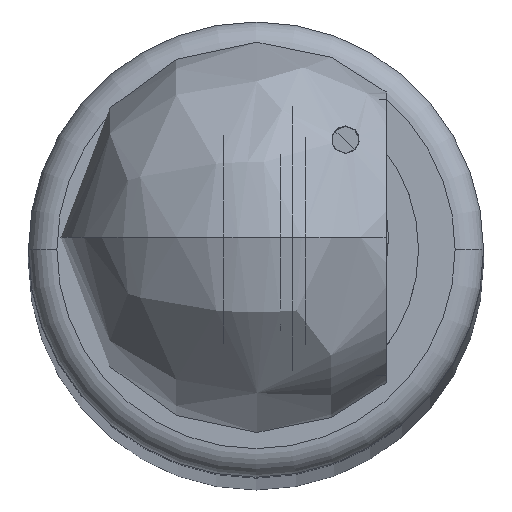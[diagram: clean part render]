
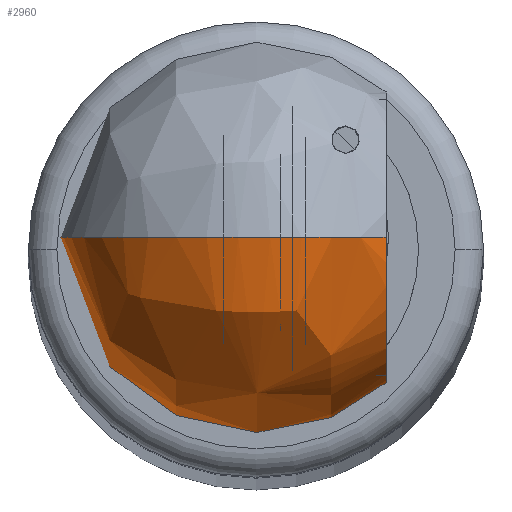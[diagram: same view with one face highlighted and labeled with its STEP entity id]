
A CAD part, top view. The second image highlights one B-rep face of the part: STEP entity #2960.
In plain terms, the highlighted free-form (B-spline) face has degree [3, 3] with [4, 4] control points.
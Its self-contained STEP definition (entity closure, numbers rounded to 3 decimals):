
#376 = CIRCLE ( 'NONE', #439, 12. ) ;
#439 = AXIS2_PLACEMENT_3D ( 'NONE', #1377, #1376, #1373 ) ;
#1218 = CARTESIAN_POINT ( 'NONE',  ( -12., 0., 0. ) ) ;
#1229 = CARTESIAN_POINT ( 'NONE',  ( -12., 0., 0. ) ) ;
#1245 = CARTESIAN_POINT ( 'NONE',  ( -12., 0., 0. ) ) ;
#1250 = CARTESIAN_POINT ( 'NONE',  ( -12., 0., 0. ) ) ;
#1264 = CARTESIAN_POINT ( 'NONE',  ( -12., -12.061, 0. ) ) ;
#1272 = CARTESIAN_POINT ( 'NONE',  ( -12., -12.061, 24.122 ) ) ;
#1276 = CARTESIAN_POINT ( 'NONE',  ( -12., 12.061, 24.122 ) ) ;
#1279 = CARTESIAN_POINT ( 'NONE',  ( -12., 12.061, 0. ) ) ;
#1284 = CARTESIAN_POINT ( 'NONE',  ( -0.99, -16.985, 0. ) ) ;
#1294 = CARTESIAN_POINT ( 'NONE',  ( -0.99, -16.985, 33.97 ) ) ;
#1304 = CARTESIAN_POINT ( 'NONE',  ( -0.99, 16.985, 33.97 ) ) ;
#1308 = CARTESIAN_POINT ( 'NONE',  ( -0.99, 16.985, 0. ) ) ;
#1317 = CARTESIAN_POINT ( 'NONE',  ( 8., -8.944, 0. ) ) ;
#1321 = CARTESIAN_POINT ( 'NONE',  ( 8., -8.944, 17.889 ) ) ;
#1327 = CARTESIAN_POINT ( 'NONE',  ( 8., 8.944, 17.889 ) ) ;
#1337 = CARTESIAN_POINT ( 'NONE',  ( 8., 8.944, 0. ) ) ;
#1373 = DIRECTION ( 'NONE',  ( 1., 0., 0. ) ) ;
#1376 = DIRECTION ( 'NONE',  ( 0., 0., -1. ) ) ;
#1377 = CARTESIAN_POINT ( 'NONE',  ( 0., 0., 0. ) ) ;
#1438 = ORIENTED_EDGE ( 'NONE', *, *, #2919, .T. ) ;
#1473 = ORIENTED_EDGE ( 'NONE', *, *, #2857, .T. ) ;
#1493 = VERTEX_POINT ( 'NONE', #3102 ) ;
#1520 = ORIENTED_EDGE ( 'NONE', *, *, #2958, .F. ) ;
#1521 = ORIENTED_EDGE ( 'NONE', *, *, #2847, .T. ) ;
#1528 = VERTEX_POINT ( 'NONE', #3137 ) ;
#1556 = VERTEX_POINT ( 'NONE', #3599 ) ;
#1589 = EDGE_LOOP ( 'NONE', ( #1520, #1521, #1438, #1607, #1473 ) ) ;
#1590 = VERTEX_POINT ( 'NONE', #3588 ) ;
#1607 = ORIENTED_EDGE ( 'NONE', *, *, #2862, .F. ) ;
#2308 =( BOUNDED_SURFACE ( )  B_SPLINE_SURFACE ( 3, 3, ( 
 ( #1337, #1327, #1321, #1317 ),
 ( #1308, #1304, #1294, #1284 ),
 ( #1279, #1276, #1272, #1264 ),
 ( #1250, #1245, #1229, #1218 ) ),
 .UNSPECIFIED., .F., .F., .F. ) 
 B_SPLINE_SURFACE_WITH_KNOTS ( ( 4, 4 ),
 ( 4, 4 ),
 ( 0., 1. ),
 ( 0., 1. ),
 .UNSPECIFIED. ) 
 GEOMETRIC_REPRESENTATION_ITEM ( )  RATIONAL_B_SPLINE_SURFACE ( (
 ( 1., 0.333, 0.333, 1.),
 ( 0.605, 0.202, 0.202, 0.605),
 ( 0.605, 0.202, 0.202, 0.605),
 ( 1., 0.333, 0.333, 1.) ) ) 
 REPRESENTATION_ITEM ( '' )  SURFACE ( )  );
#2488 = FACE_OUTER_BOUND ( 'NONE', #1589, .T. ) ;
#2724 = VERTEX_POINT ( 'NONE', #3531 ) ;
#2761 = CIRCLE ( 'NONE', #2763, 8.944 ) ;
#2763 = AXIS2_PLACEMENT_3D ( 'NONE', #3283, #3282, #3281 ) ;
#2766 = CIRCLE ( 'NONE', #2778, 12. ) ;
#2768 = CIRCLE ( 'NONE', #2770, 6.721 ) ;
#2770 = AXIS2_PLACEMENT_3D ( 'NONE', #3186, #3185, #3184 ) ;
#2778 = AXIS2_PLACEMENT_3D ( 'NONE', #3170, #3555, #3201 ) ;
#2847 = EDGE_CURVE ( 'NONE', #1493, #2724, #2761, .T. ) ;
#2857 = EDGE_CURVE ( 'NONE', #1528, #1590, #2768, .T. ) ;
#2862 = EDGE_CURVE ( 'NONE', #1528, #1556, #2766, .T. ) ;
#2919 = EDGE_CURVE ( 'NONE', #2724, #1556, #4109, .T. ) ;
#2958 = EDGE_CURVE ( 'NONE', #1493, #1590, #376, .T. ) ;
#2960 = ADVANCED_FACE ( 'NONE', ( #2488 ), #2308, .T. ) ;
#3102 = CARTESIAN_POINT ( 'NONE',  ( 8., -8.944, 0. ) ) ;
#3137 = CARTESIAN_POINT ( 'NONE',  ( -6.721, -9.941, 0. ) ) ;
#3170 = CARTESIAN_POINT ( 'NONE',  ( 0., 0., 0. ) ) ;
#3184 = DIRECTION ( 'NONE',  ( 1., 0., 0. ) ) ;
#3185 = DIRECTION ( 'NONE',  ( 0., 1., 0. ) ) ;
#3186 = CARTESIAN_POINT ( 'NONE',  ( 0., -9.941, 0. ) ) ;
#3201 = DIRECTION ( 'NONE',  ( 1., 0., 0. ) ) ;
#3281 = DIRECTION ( 'NONE',  ( 0., 1., 0. ) ) ;
#3282 = DIRECTION ( 'NONE',  ( -1., 0., 0. ) ) ;
#3283 = CARTESIAN_POINT ( 'NONE',  ( 8., 0., 0. ) ) ;
#3531 = CARTESIAN_POINT ( 'NONE',  ( 8., 8.944, 0. ) ) ;
#3555 = DIRECTION ( 'NONE',  ( 0., 0., -1. ) ) ;
#3588 = CARTESIAN_POINT ( 'NONE',  ( 6.721, -9.941, 0. ) ) ;
#3599 = CARTESIAN_POINT ( 'NONE',  ( -12., 0., 0. ) ) ;
#4046 = DIRECTION ( 'NONE',  ( 1., 0., 0. ) ) ;
#4048 = DIRECTION ( 'NONE',  ( 0., 0., 1. ) ) ;
#4050 = CARTESIAN_POINT ( 'NONE',  ( 0., 0., 0. ) ) ;
#4101 = AXIS2_PLACEMENT_3D ( 'NONE', #4050, #4048, #4046 ) ;
#4109 = CIRCLE ( 'NONE', #4101, 12. ) ;
